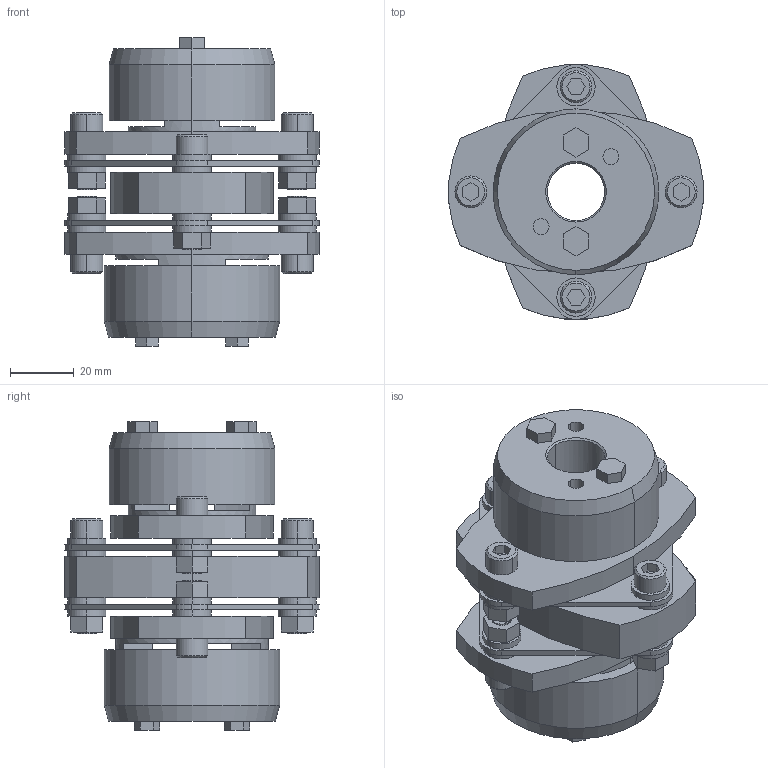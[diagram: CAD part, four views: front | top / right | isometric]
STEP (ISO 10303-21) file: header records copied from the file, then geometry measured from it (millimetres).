
FILE_DESCRIPTION((''),'2;1');
FILE_NAME('LCD-80T7-18×28.stp','2011-09-15T13:17:55',(''),(''),'AutoCAD STEP 2000i','AutoCAD 2000i',', , ');
FILE_SCHEMA(('CONFIG_CONTROL_DESIGN'));
Length unit declared in the file: millimetre
Products named in the file (9): LCD-80T7-17×28; 忣兜1; LC80T7-T028; LC80T7-T024; LC80T7-T022; LC80T7-T019; LC80T7-T017-1; LC80T7-T017; LCD80-ITA
Assembly tree (8 placements, depth 2):
  LCD-80T7-17×28
    忣兜1
    LC80T7-T028
    LC80T7-T024
    LC80T7-T022
    LC80T7-T019
    LC80T7-T017-1
    LC80T7-T017
    LCD80-ITA
Bounding box: 80 x 79.95 x 96.8 mm (x, y, z)
Volume: 177639.1 mm3; surface area: 56964.9 mm2
Topology: 1 solids, 1 shells, 320 faces, 780 edges, 512 vertices
Faces by surface type: plane 176, cylinder 120, cone 24
Entity records: 9691 total; most frequent: DIRECTION 1718, CARTESIAN_POINT 1621, ORIENTED_EDGE 1560, EDGE_CURVE 780, AXIS2_PLACEMENT_3D 609, VERTEX_POINT 512, VECTOR 500, LINE 500
